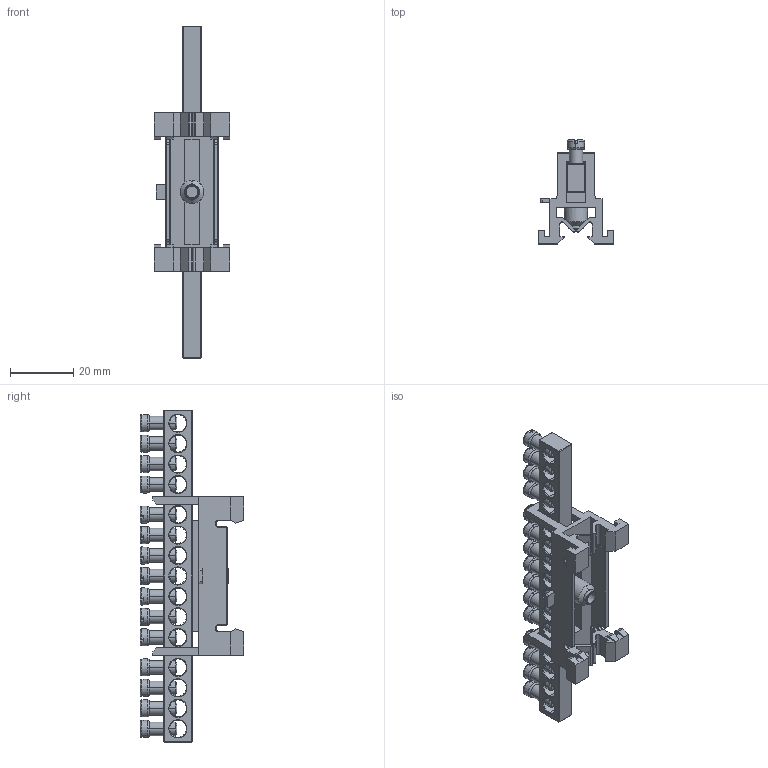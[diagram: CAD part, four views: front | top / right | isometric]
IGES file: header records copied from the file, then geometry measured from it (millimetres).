
Start section: SolidWorks IGES file using analytic representation for surfaces
Global section: file name: U:\14_RD\05_Technical_office\04_Office\Hrdinova\3D modely - IGES\Minia\CS-PE15.IGS; native system: SolidWorks 2011; preprocessor: SolidWorks 2011; author: adhrja3; date: 170615.073927; units: millimetre
Bounding box: 23.7 x 32.67 x 104.6 mm (x, y, z)
Surface area: 13360.6 mm2 (no closed solid volume)
Topology: 0 solids, 0 shells, 948 faces, 8553 edges, 8553 vertices
Faces by surface type: bspline 647, revolution 301
